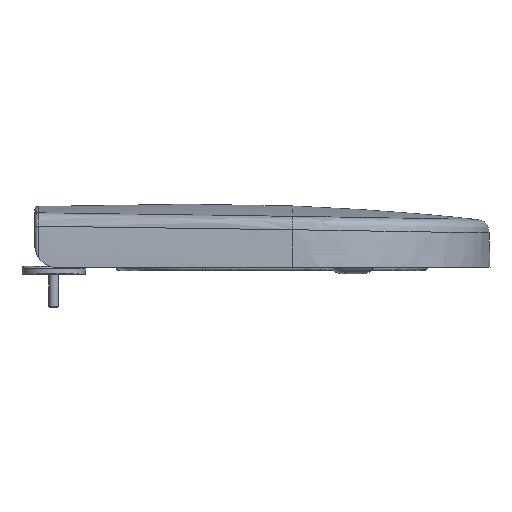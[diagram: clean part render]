
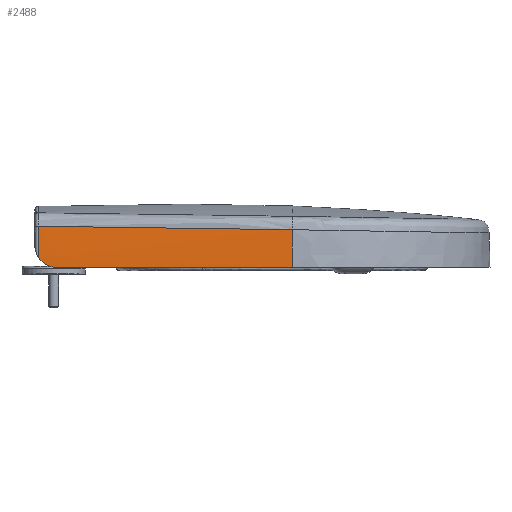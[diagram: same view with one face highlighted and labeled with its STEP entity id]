
A CAD part, left-side view. The second image highlights one B-rep face of the part: STEP entity #2488.
In plain terms, the highlighted face is a revolution surface.
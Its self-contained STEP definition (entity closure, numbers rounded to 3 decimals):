
#54=SURFACE_OF_REVOLUTION('',#449,#56);
#56=AXIS1_PLACEMENT('',#20349,#9887);
#59=(
BOUNDED_CURVE()
B_SPLINE_CURVE(3,(#12643,#12644,#12645,#12646),.UNSPECIFIED.,.F.,.F.)
B_SPLINE_CURVE_WITH_KNOTS((4,4),(0.,1.),.UNSPECIFIED.)
CURVE()
GEOMETRIC_REPRESENTATION_ITEM()
RATIONAL_B_SPLINE_CURVE((1.,1.,1.,1.))
REPRESENTATION_ITEM('')
);
#424=B_SPLINE_CURVE_WITH_KNOTS('',3,(#18646,#18647,#18648,#18649),
 .UNSPECIFIED.,.F.,.F.,(4,4),(0.,1.),.UNSPECIFIED.);
#433=B_SPLINE_CURVE_WITH_KNOTS('',3,(#19053,#19054,#19055,#19056,#19057,
#19058,#19059,#19060,#19061,#19062,#19063,#19064,#19065,#19066,#19067,#19068,
#19069,#19070,#19071,#19072),.UNSPECIFIED.,.F.,.F.,(4,2,2,1,2,2,2,1,2,2,
4),(0.,0.25,0.375,0.438,0.469,0.5,
0.625,0.688,0.719,0.75,1.),.UNSPECIFIED.);
#444=B_SPLINE_CURVE_WITH_KNOTS('',3,(#19879,#19880,#19881,#19882),
 .UNSPECIFIED.,.F.,.F.,(4,4),(0.,1.),.UNSPECIFIED.);
#448=B_SPLINE_CURVE_WITH_KNOTS('',3,(#20313,#20314,#20315,#20316,#20317,
#20318,#20319,#20320,#20321,#20322,#20323,#20324,#20325,#20326,#20327,#20328,
#20329,#20330,#20331,#20332,#20333,#20334,#20335,#20336,#20337,#20338,#20339,
#20340,#20341,#20342,#20343,#20344),.UNSPECIFIED.,.F.,.F.,(4,1,1,1,2,2,
2,1,1,2,2,2,2,2,2,2,2,1,4),(0.,0.125,0.187,0.219,
0.234,0.25,0.312,0.344,
0.359,0.367,0.375,0.437,
0.469,0.5,0.75,0.812,
0.844,0.875,1.),.UNSPECIFIED.);
#449=B_SPLINE_CURVE_WITH_KNOTS('',3,(#20345,#20346,#20347,#20348),
 .UNSPECIFIED.,.F.,.F.,(4,4),(0.,1.),.UNSPECIFIED.);
#1816=FACE_OUTER_BOUND('',#3328,.T.);
#2488=ADVANCED_FACE('',(#1816),#54,.F.);
#3328=EDGE_LOOP('',(#4309,#4310,#4311,#4312,#4313));
#4309=ORIENTED_EDGE('',*,*,#7563,.T.);
#4310=ORIENTED_EDGE('',*,*,#7523,.T.);
#4311=ORIENTED_EDGE('',*,*,#7541,.T.);
#4312=ORIENTED_EDGE('',*,*,#7348,.T.);
#4313=ORIENTED_EDGE('',*,*,#7558,.F.);
#6532=VERTEX_POINT('',#12642);
#6533=VERTEX_POINT('',#12647);
#6647=VERTEX_POINT('',#18258);
#6649=VERTEX_POINT('',#18645);
#6667=VERTEX_POINT('',#19878);
#7348=EDGE_CURVE('',#6533,#6532,#59,.T.);
#7523=EDGE_CURVE('',#6647,#6649,#424,.T.);
#7541=EDGE_CURVE('',#6649,#6533,#433,.T.);
#7558=EDGE_CURVE('',#6667,#6532,#444,.T.);
#7563=EDGE_CURVE('',#6667,#6647,#448,.T.);
#9887=DIRECTION('',(0.,0.,-1.));
#12642=CARTESIAN_POINT('',(-177.43,-214.298,-26.));
#12643=CARTESIAN_POINT('',(-180.427,-0.8,-26.));
#12644=CARTESIAN_POINT('',(-180.792,-71.981,-26.));
#12645=CARTESIAN_POINT('',(-179.793,-143.156,-26.));
#12646=CARTESIAN_POINT('',(-177.43,-214.298,-26.));
#12647=CARTESIAN_POINT('',(-180.427,-0.8,-26.));
#18258=CARTESIAN_POINT('',(-179.099,16.225,11.239));
#18645=CARTESIAN_POINT('',(-180.234,16.225,-16.496));
#18646=CARTESIAN_POINT('',(-179.099,16.225,11.239));
#18647=CARTESIAN_POINT('',(-179.702,16.225,2.003));
#18648=CARTESIAN_POINT('',(-180.08,16.225,-7.245));
#18649=CARTESIAN_POINT('',(-180.234,16.225,-16.496));
#19053=CARTESIAN_POINT('',(-180.234,16.225,-16.496));
#19054=CARTESIAN_POINT('',(-180.26,15.48,-17.704));
#19055=CARTESIAN_POINT('',(-180.282,14.628,-18.81));
#19056=CARTESIAN_POINT('',(-180.309,13.19,-20.316));
#19057=CARTESIAN_POINT('',(-180.317,12.684,-20.793));
#19058=CARTESIAN_POINT('',(-180.329,11.885,-21.469));
#19059=CARTESIAN_POINT('',(-180.335,11.475,-21.798));
#19060=CARTESIAN_POINT('',(-180.34,11.051,-22.112));
#19061=CARTESIAN_POINT('',(-180.343,10.764,-22.319));
#19062=CARTESIAN_POINT('',(-180.345,10.665,-22.39));
#19063=CARTESIAN_POINT('',(-180.355,9.705,-23.044));
#19064=CARTESIAN_POINT('',(-180.363,8.909,-23.51));
#19065=CARTESIAN_POINT('',(-180.374,7.672,-24.124));
#19066=CARTESIAN_POINT('',(-180.379,7.043,-24.409));
#19067=CARTESIAN_POINT('',(-180.383,6.398,-24.661));
#19068=CARTESIAN_POINT('',(-180.387,5.964,-24.823));
#19069=CARTESIAN_POINT('',(-180.388,5.782,-24.888));
#19070=CARTESIAN_POINT('',(-180.404,3.474,-25.657));
#19071=CARTESIAN_POINT('',(-180.415,1.365,-26.));
#19072=CARTESIAN_POINT('',(-180.427,-0.8,-26.));
#19878=CARTESIAN_POINT('',(-176.413,-214.264,8.101));
#19879=CARTESIAN_POINT('',(-176.413,-214.264,8.101));
#19880=CARTESIAN_POINT('',(-177.091,-214.287,-3.252));
#19881=CARTESIAN_POINT('',(-177.43,-214.298,-14.626));
#19882=CARTESIAN_POINT('',(-177.43,-214.298,-26.));
#20313=CARTESIAN_POINT('',(-176.413,-214.264,8.101));
#20314=CARTESIAN_POINT('',(-176.72,-204.724,8.275));
#20315=CARTESIAN_POINT('',(-177.144,-190.369,8.526));
#20316=CARTESIAN_POINT('',(-177.578,-173.54,8.8));
#20317=CARTESIAN_POINT('',(-177.779,-165.106,8.933));
#20318=CARTESIAN_POINT('',(-177.862,-161.487,8.99));
#20319=CARTESIAN_POINT('',(-177.916,-159.073,9.027));
#20320=CARTESIAN_POINT('',(-177.944,-157.814,9.046));
#20321=CARTESIAN_POINT('',(-178.071,-152.035,9.134));
#20322=CARTESIAN_POINT('',(-178.169,-147.323,9.204));
#20323=CARTESIAN_POINT('',(-178.309,-140.12,9.308));
#20324=CARTESIAN_POINT('',(-178.377,-136.486,9.36));
#20325=CARTESIAN_POINT('',(-178.453,-132.187,9.421));
#20326=CARTESIAN_POINT('',(-178.486,-130.332,9.447));
#20327=CARTESIAN_POINT('',(-178.507,-129.092,9.464));
#20328=CARTESIAN_POINT('',(-178.518,-128.429,9.473));
#20329=CARTESIAN_POINT('',(-178.606,-123.202,9.546));
#20330=CARTESIAN_POINT('',(-178.68,-118.477,9.61));
#20331=CARTESIAN_POINT('',(-178.783,-111.274,9.707));
#20332=CARTESIAN_POINT('',(-178.816,-108.854,9.74));
#20333=CARTESIAN_POINT('',(-178.879,-103.974,9.805));
#20334=CARTESIAN_POINT('',(-178.91,-101.472,9.838));
#20335=CARTESIAN_POINT('',(-179.166,-79.554,10.127));
#20336=CARTESIAN_POINT('',(-179.289,-60.273,10.369));
#20337=CARTESIAN_POINT('',(-179.322,-36.424,10.653));
#20338=CARTESIAN_POINT('',(-179.322,-31.667,10.708));
#20339=CARTESIAN_POINT('',(-179.314,-24.55,10.79));
#20340=CARTESIAN_POINT('',(-179.309,-22.205,10.817));
#20341=CARTESIAN_POINT('',(-179.297,-17.355,10.873));
#20342=CARTESIAN_POINT('',(-179.26,-5.256,11.009));
#20343=CARTESIAN_POINT('',(-179.184,6.722,11.139));
#20344=CARTESIAN_POINT('',(-179.099,16.225,11.239));
#20345=CARTESIAN_POINT('',(-180.494,-21.214,-26.));
#20346=CARTESIAN_POINT('',(-180.494,-21.214,-6.901));
#20347=CARTESIAN_POINT('',(-179.536,-21.215,12.197));
#20348=CARTESIAN_POINT('',(-177.626,-21.218,31.2));
#20349=CARTESIAN_POINT('',(5389.537,-29.4,2.636));
